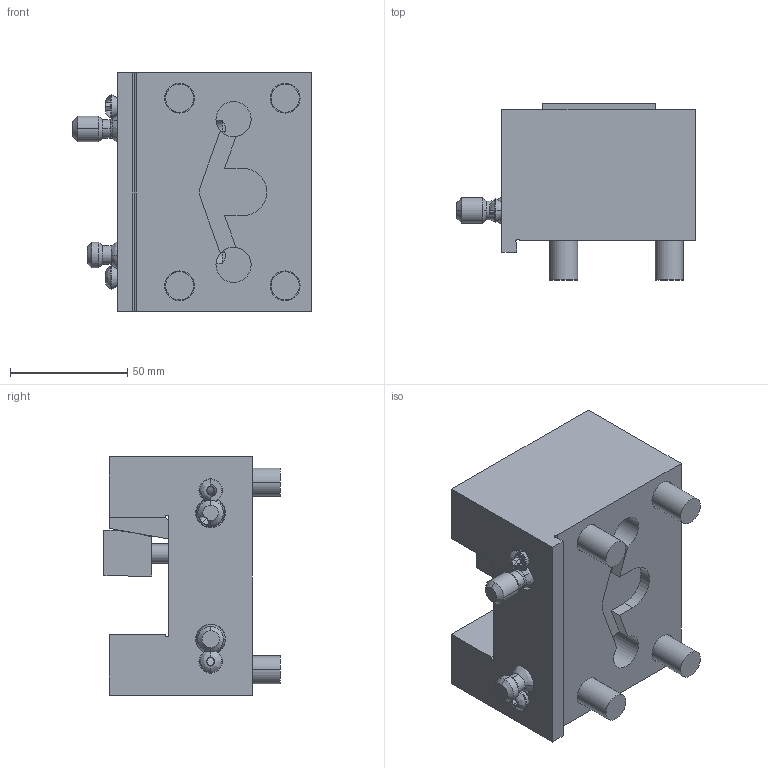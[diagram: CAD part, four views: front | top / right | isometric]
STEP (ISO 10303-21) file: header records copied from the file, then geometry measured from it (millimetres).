
FILE_DESCRIPTION (( 'STEP AP203' ), '1' );
FILE_NAME ('04-0753, BOT20MFG-25.STEP', '2022-07-18T22:12:33', ( '' ), ( '' ), 'SwSTEP 2.0', 'SolidWorks 2021', '' );
FILE_SCHEMA (( 'CONFIG_CONTROL_DESIGN' ));
Length unit declared in the file: inch
Products named in the file (1): 04-0753, BOT20MFG-25
Bounding box: 101.82 x 75.06 x 101.6 mm (x, y, z)
Surface area: 75576.1 mm2 (no closed solid volume)
Topology: 0 solids, 23 shells, 235 faces, 641 edges, 420 vertices
Faces by surface type: plane 107, cylinder 77, cone 39, bspline 12
Entity records: 9958 total; most frequent: CARTESIAN_POINT 4061, DIRECTION 1215, ORIENTED_EDGE 1132, EDGE_CURVE 633, AXIS2_PLACEMENT_3D 452, VERTEX_POINT 420, VECTOR 311, LINE 311
